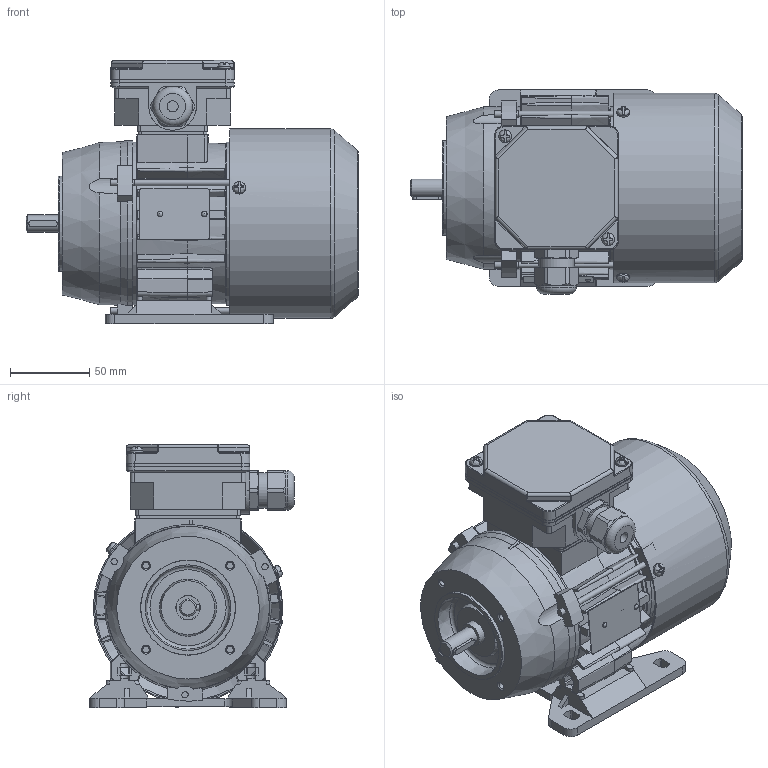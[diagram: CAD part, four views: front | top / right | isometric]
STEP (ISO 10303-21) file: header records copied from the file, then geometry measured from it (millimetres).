
FILE_DESCRIPTION( ( 'Unknown' ), '1' );
FILE_NAME( 'G:/Poczta Tk-1/STP/w.m.63/Sh63/SLh63-B2.stp', 'Unknown', ( 'K. Szlosek' ), ( 'BESEL S.A.' ), 'PSStep 17.0.49', 'Unknown', ' ' );
FILE_SCHEMA( ( 'AUTOMOTIVE_DESIGN { 1 0 10303 214 1 1 1 1 }' ) );
Length unit declared in the file: millimetre
Products named in the file (30): Assem1; K3-5320 Tarcza łożyskowa P Sg63; K4-2320 Uszczelka nr 1 Sh71,80; Wpust A4x4x18; K4-2820 Uszczelka nr 2 Sh71,80; K2-0860 Pokrywka skrzynki zaciskowej; Wkręt samogwintujący M4x16; K2-1769 Przewietrznik Sg63; Wkręt samogwintujący M4x8; K3-9974 wał Sh63-A,B standard; K3-9973 Kadłub ze stojanem wykończonym Sh63-B; K1-1112 Tarcza kołnierzowa B14_2 SKg63-..2; K3-5321 osłona przewietrznika Sg63; Dławnica M20x1,5; Łożysko 6202; Śruba ściągająca E_M4x85; Tabliczka znamionowa 32x44; Nitokołek A 2x6; K2-0859 Podstawa skrzynki 6-cio zaciskowej; K1-1107 Łapa Sg63-.. w. robocza
Assembly tree (46 placements, depth 2):
  Assem1
    K3-5320 Tarcza łożyskowa P Sg63
    K4-2320 Uszczelka nr 1 Sh71,80
    Wpust A4x4x18
    K4-2820 Uszczelka nr 2 Sh71,80
    K2-0860 Pokrywka skrzynki zaciskowej
    Wkręt samogwintujący M4x16  x2
    K2-1769 Przewietrznik Sg63
    Wkręt samogwintujący M4x8  x3
    K3-9974 wał Sh63-A,B standard
    K3-9973 Kadłub ze stojanem wykończonym Sh63-B
    K1-1112 Tarcza kołnierzowa B14_2 SKg63-..2
    K3-5321 osłona przewietrznika Sg63
    Dławnica M20x1,5
    Łożysko 6202  x2
    Łożysko 6202  x2
    Łożysko 6202  x2
    Łożysko 6202  x2
    Łożysko 6202  x2
    Łożysko 6202  x2
    Łożysko 6202  x2
    Łożysko 6202  x2
    Łożysko 6202  x2
    Łożysko 6202  x2
    Łożysko 6202  x2
    Śruba ściągająca E_M4x85  x3
    Tabliczka znamionowa 32x44
    Nitokołek A 2x6  x2
    K2-0859 Podstawa skrzynki 6-cio zaciskowej
    K1-1107 Łapa Sg63-.. w. robocza
Bounding box: 209.5 x 129 x 166 mm (x, y, z)
Volume: 546943.5 mm3; surface area: 360780.7 mm2
Topology: 46 solids, 64 shells, 1996 faces, 5486 edges, 3559 vertices
Faces by surface type: plane 1014, cylinder 588, cone 142, torus 116, bspline 97, sphere 39
Full cylindrical faces by diameter (mm): 2 x2, 2.4 x2, 3.242 x3, 3.7 x10, 4 x8, 4.134 x4, 4.5 x4, 4.8 x4, 5 x4, 5.8 x4, 7 x4, 8 x6, 11 x1, 12.9 x1, 13.1 x1, 13.5 x1, 15 x4, 15.4 x2, 18.376 x1, 18.38 x1, 19 x2, 19.5 x1, 20 x2, 20.1 x1, 21.52 x4, 22.3 x1, 25 x1, 28 x2, 28.48 x4, 31 x2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
Entity records: 86550 total; most frequent: CARTESIAN_POINT 26250, ORIENTED_EDGE 9532, DIRECTION 9148, EDGE_CURVE 4766, AXIS2_PLACEMENT_3D 3375, VERTEX_POINT 3238, LINE 2398, VECTOR 2398
